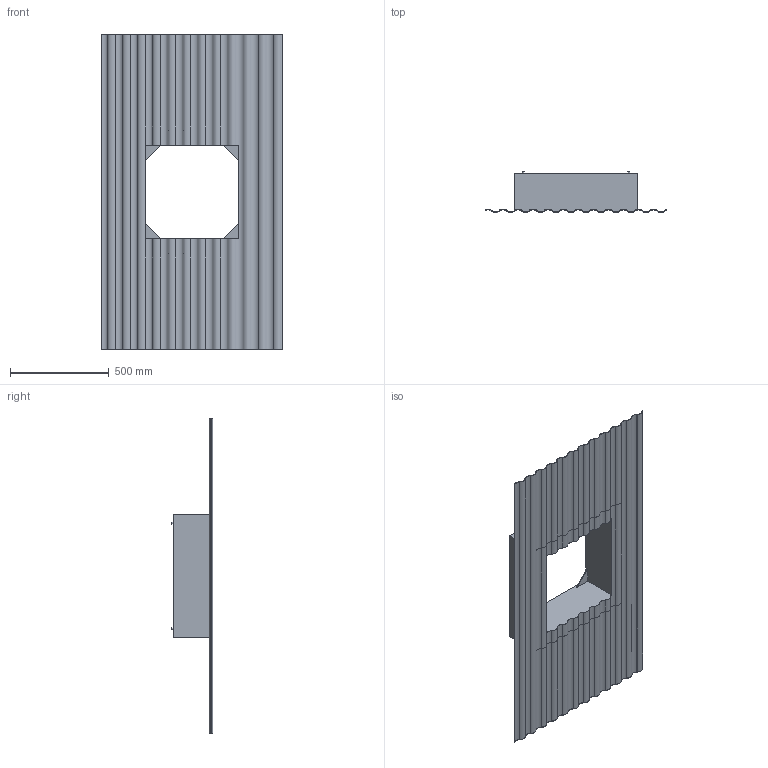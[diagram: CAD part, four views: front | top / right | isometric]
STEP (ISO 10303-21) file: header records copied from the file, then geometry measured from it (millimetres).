
FILE_DESCRIPTION(/* description */ (''),/* implementation_level */ '2;1');
FILE_NAME(/* name */ 'Z:\Output\WDS_355-400-01562-001.stp',/* time_stamp */ '2017-11-10T11:51:37+01:00',/* author */ ('engineering1'),/* organization */ (''),/* preprocessor_version */ 'ST-DEVELOPER v16.5',/* originating_system */ 'Autodesk Inventor 2017',/* authorisation */ '');
FILE_SCHEMA (('AUTOMOTIVE_DESIGN { 1 0 10303 214 3 1 1 }'));
Length unit declared in the file: millimetre
Products named in the file (1): WDS
Bounding box: 920.98 x 209.9 x 1600 mm (x, y, z)
Volume: 34201945.6 mm3; surface area: 3595152.5 mm2
Topology: 1 solids, 1 shells, 110 faces, 315 edges, 210 vertices
Faces by surface type: cylinder 81, plane 29
Full cylindrical faces by diameter (mm): 10 x4
Entity records: 3703 total; most frequent: DIRECTION 703, CARTESIAN_POINT 632, ORIENTED_EDGE 622, EDGE_CURVE 311, AXIS2_PLACEMENT_3D 281, VERTEX_POINT 210, CIRCLE 170, LINE 141
